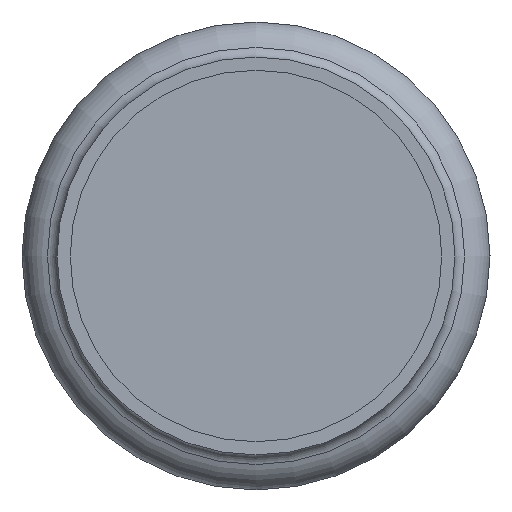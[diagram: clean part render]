
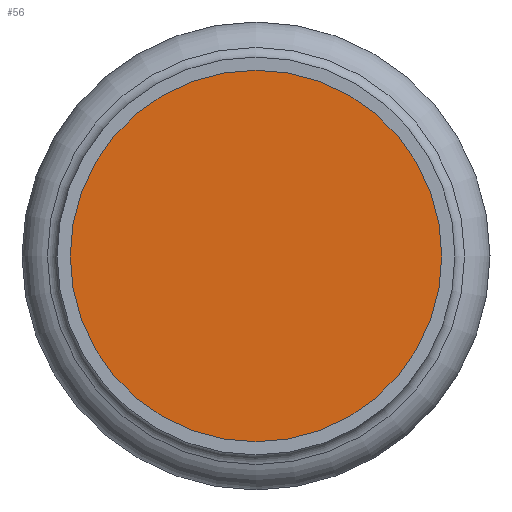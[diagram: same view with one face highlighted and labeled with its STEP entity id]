
A CAD part, front view. The second image highlights one B-rep face of the part: STEP entity #56.
In plain terms, the highlighted planar face has unit normal (0, -1, 0).
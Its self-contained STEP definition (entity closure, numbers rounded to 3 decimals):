
#56=ADVANCED_FACE('',(#97),#99,.T.);
#97=FACE_BOUND('',#98,.T.);
#98=EDGE_LOOP('',(#244));
#99=PLANE('',#100);
#100=AXIS2_PLACEMENT_3D('',#101,#102,#103);
#101=CARTESIAN_POINT('',(0.,-36.292,0.));
#102=DIRECTION('',(0.,-1.,0.));
#103=DIRECTION('',(0.,0.,-1.));
#244=ORIENTED_EDGE('',*,*,#277,.T.);
#277=EDGE_CURVE('',#297,#297,#298,.F.);
#297=VERTEX_POINT('',#339);
#298=CIRCLE('',#340,21.15);
#339=CARTESIAN_POINT('',(0.,-36.292,21.15));
#340=AXIS2_PLACEMENT_3D('',#341,#342,#343);
#341=CARTESIAN_POINT('',(0.,-36.292,0.));
#342=DIRECTION('',(0.,1.,0.));
#343=DIRECTION('',(0.,0.,1.));
